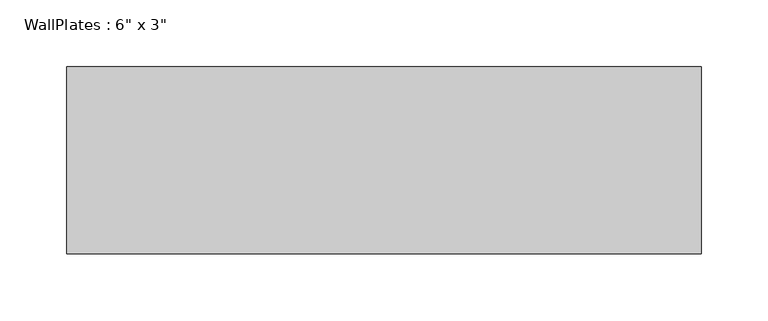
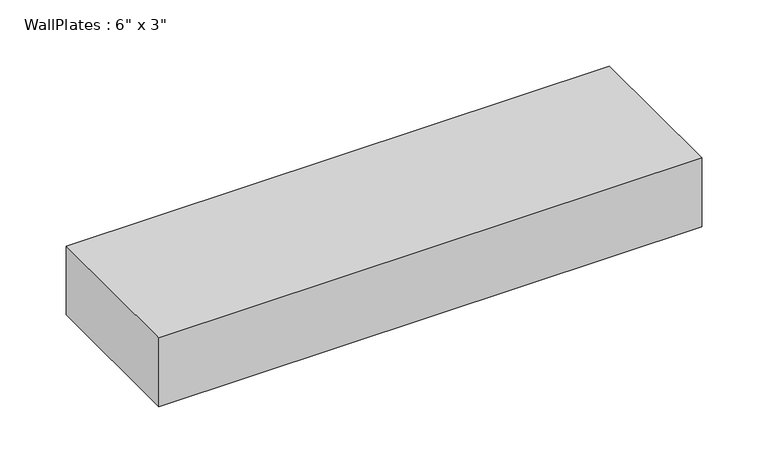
"""IFC4 building model written with IfcOpenShell, lengths in millimetres: beam geometry."""

import ifcopenshell
import ifcopenshell.guid

model = None  # the IFC model being written
_history = None  # IfcOwnerHistory: only IFC2X3 demands one
_inside = {}  # id of a spatial element -> (the spatial element, [elements in it])
_under = {}  # id of a project, library or spatial element -> (it, [spatial elements below it])
_declared = {}  # id of a project -> (the project, [libraries it declares])
_typed = {}  # id of a type object -> (the type object, [elements of that type])
_made_of = {}  # id of a material, layer set ... -> (it, [elements and type objects made of it])


def new_model(schema):
    """Start an empty IFC model of exactly this schema.

    Asked for "IFC4X3", IfcOpenShell would pick the latest addendum, in which some entities
    have other attributes; the version numbers below select the first issue.
    IFC2X3 requires an IfcOwnerHistory on every rooted entity: one is made here for all.
    """
    global model, _history
    if schema == "IFC4X3":
        model = ifcopenshell.file(schema_version=(4, 3, 0, 0))
    else:
        model = ifcopenshell.file(schema=schema)
    _inside.clear()
    _under.clear()
    _declared.clear()
    _typed.clear()
    _made_of.clear()
    _history = None
    if model.schema == "IFC2X3":
        org = make("IfcOrganization", Name="unknown")
        user = make(
            "IfcPersonAndOrganization",
            ThePerson=make("IfcPerson", FamilyName="unknown"),
            TheOrganization=org,
        )
        app = make(
            "IfcApplication",
            ApplicationDeveloper=org,
            Version="unknown",
            ApplicationFullName="unknown",
            ApplicationIdentifier="unknown",
        )
        _history = make(
            "IfcOwnerHistory",
            OwningUser=user,
            OwningApplication=app,
            ChangeAction="ADDED",
            CreationDate=0,
        )
    return model


def make(cls, **values):
    """One entity of the class cls with the attributes given. An attribute that is None is left unset."""
    return model.create_entity(
        cls, **{name: value for name, value in values.items() if value is not None}
    )


def rooted(cls, **values):
    """An entity with a GlobalId (a new one), such as an element, a storey or a relation."""
    return make(cls, GlobalId=ifcopenshell.guid.new(), OwnerHistory=_history, **values)


def si_unit(unit_type, name, prefix=None):
    """IfcSIUnit, for example si_unit("LENGTHUNIT", "METRE", prefix="MILLI")."""
    return make("IfcSIUnit", UnitType=unit_type, Prefix=prefix, Name=name)


def assignment(units):
    """IfcUnitAssignment: the units of a project."""
    return None if units is None else make("IfcUnitAssignment", Units=units)


def point(xyz):
    """IfcCartesianPoint."""
    return None if xyz is None else make("IfcCartesianPoint", Coordinates=xyz)


def direction(xyz):
    """IfcDirection."""
    return None if xyz is None else make("IfcDirection", DirectionRatios=xyz)


def frame(location, z_axis=None, x_axis=None):
    """IfcAxis2Placement3D, a coordinate frame: its origin and axes. An axis left out is left unset."""
    return make(
        "IfcAxis2Placement3D",
        Location=point(location),
        Axis=direction(z_axis),
        RefDirection=direction(x_axis),
    )


def origin():
    """The frame at (0, 0, 0) with its axes left unset."""
    return frame((0.0, 0.0, 0.0))


def place(relative_to, where):
    """IfcLocalPlacement: puts the frame where relative to a parent placement (None: the world)."""
    return make(
        "IfcLocalPlacement", PlacementRelTo=relative_to, RelativePlacement=where
    )


def context(
    kind, dimensions, precision=None, world=None, true_north=None, identifier=None
):
    """IfcGeometricRepresentationContext, for example the 3D "Model" context."""
    return make(
        "IfcGeometricRepresentationContext",
        ContextIdentifier=identifier,
        ContextType=kind,
        CoordinateSpaceDimension=dimensions,
        Precision=precision,
        WorldCoordinateSystem=world,
        TrueNorth=true_north,
    )


def project(units=None, contexts=None):
    """IfcProject with its units and contexts."""
    return rooted(
        "IfcProject",
        Name="project",
        RepresentationContexts=contexts,
        UnitsInContext=assignment(units),
    )


def spatial(cls, under=None, at=None, **own):
    """A site, building, storey or space (cls), placed at a placement, below another one or the project."""
    s = rooted(cls, ObjectPlacement=at, **own)
    if under is not None:
        _under.setdefault(under.id(), (under, []))[1].append(s)
    return s


def polyline(points):
    """IfcPolyline through the points."""
    return make("IfcPolyline", Points=[point(p) for p in points])


def outline(outer, holes=None, kind="AREA"):
    """IfcArbitraryClosedProfileDef: a profile drawn as a closed curve; with holes, ...WithVoids."""
    if holes is None:
        return make("IfcArbitraryClosedProfileDef", ProfileType=kind, OuterCurve=outer)
    return make(
        "IfcArbitraryProfileDefWithVoids",
        ProfileType=kind,
        OuterCurve=outer,
        InnerCurves=holes,
    )


def extrude(swept, where, along, depth):
    """IfcExtrudedAreaSolid: the profile swept, set in the frame where, extruded along a direction by depth."""
    return make(
        "IfcExtrudedAreaSolid",
        SweptArea=swept,
        Position=where,
        ExtrudedDirection=direction(along),
        Depth=depth,
    )


def shape(context_of_items, identifier, shape_type, items):
    """IfcShapeRepresentation: the items that make up one representation, for example the "Body"."""
    return make(
        "IfcShapeRepresentation",
        ContextOfItems=context_of_items,
        RepresentationIdentifier=identifier,
        RepresentationType=shape_type,
        Items=items,
    )


def source(mapping_origin, context_of_items, identifier, shape_type, items):
    """IfcRepresentationMap: a shape defined once, which mapped items show again and again."""
    return make(
        "IfcRepresentationMap",
        MappingOrigin=mapping_origin,
        MappedRepresentation=shape(context_of_items, identifier, shape_type, items),
    )


def transform(
    local_origin,
    x_axis=None,
    y_axis=None,
    z_axis=None,
    scale=None,
    scale2=None,
    scale3=None,
    uniform=True,
):
    """IfcCartesianTransformationOperator3D, or its non-uniform kind. x_axis, y_axis, z_axis: its Axis1, 2, 3."""
    if uniform:
        return make(
            "IfcCartesianTransformationOperator3D",
            Axis1=direction(x_axis),
            Axis2=direction(y_axis),
            LocalOrigin=point(local_origin),
            Scale=scale,
            Axis3=direction(z_axis),
        )
    return make(
        "IfcCartesianTransformationOperator3DnonUniform",
        Axis1=direction(x_axis),
        Axis2=direction(y_axis),
        LocalOrigin=point(local_origin),
        Scale=scale,
        Axis3=direction(z_axis),
        Scale2=scale2,
        Scale3=scale3,
    )


def mapped(mapping_source, mapping_target):
    """IfcMappedItem: shows the shape of a source again, moved by a transform."""
    return make(
        "IfcMappedItem", MappingSource=mapping_source, MappingTarget=mapping_target
    )


def made_of(thing, what):
    """Note that an element or type object is made of a material, layer set ...; save() writes the relation."""
    if what is not None:
        _made_of.setdefault(what.id(), (what, []))[1].append(thing)
    return thing


def element(
    cls,
    number,
    at=None,
    inside=None,
    cuts=None,
    type_object=None,
    material=None,
    context=None,
    identifier="Body",
    shape_type=None,
    held_by="IfcProductDefinitionShape",
    body=None,
    shapes=None,
    **own,
):
    """One element of the class cls, such as IfcWall. Its Tag is "e" and its number.

    at: its placement. inside: the storey or other place that contains it. cuts: it is an
    opening in that element (IfcRelVoidsElement). A single representation is given by context,
    identifier, shape_type and body (its items); several are given by shapes. held_by: the class
    of the entity that holds the representations. save() writes the other relations.
    """
    e = rooted(cls, Tag="e%d" % number, ObjectPlacement=at, **own)
    if body is not None:
        shapes = [shape(context, identifier, shape_type, body)]
    if shapes is not None:
        e.Representation = make(held_by, Representations=shapes)
    if inside is not None:
        _inside.setdefault(inside.id(), (inside, []))[1].append(e)
    if cuts is not None:
        rooted(
            "IfcRelVoidsElement", RelatingBuildingElement=cuts, RelatedOpeningElement=e
        )
    if type_object is not None:
        _typed.setdefault(type_object.id(), (type_object, []))[1].append(e)
    return made_of(e, material)


def aggregate(whole, parts):
    """IfcRelAggregates: a whole, such as a stair, and the parts it consists of."""
    return rooted("IfcRelAggregates", RelatingObject=whole, RelatedObjects=parts)


def save(model, path):
    """Write the relations noted so far, then the file.

    IfcRelAggregates (storeys below a building ...), IfcRelContainedInSpatialStructure (elements
    in a storey), IfcRelDefinesByType, IfcRelAssociatesMaterial and IfcRelDeclares: one each for
    every whole, place, type object, material and project.
    """
    for whole, parts in _under.values():
        aggregate(whole, parts)
    for where, things in _inside.values():
        rooted(
            "IfcRelContainedInSpatialStructure",
            RelatedElements=things,
            RelatingStructure=where,
        )
    for kind, things in _typed.values():
        rooted("IfcRelDefinesByType", RelatedObjects=things, RelatingType=kind)
    for what, things in _made_of.values():
        rooted("IfcRelAssociatesMaterial", RelatedObjects=things, RelatingMaterial=what)
    for by, libraries in _declared.values():
        rooted("IfcRelDeclares", RelatingContext=by, RelatedDefinitions=libraries)
    model.write(path)


def beam_e65ac014(model_context):
    return source(origin(), model_context, "Body", "SweptSolid", [
        extrude(outline(polyline([(-237.0716667, -69.85), (-237.0716667, 69.85), (237.0716667, 69.85), (237.0716667, -69.85), (-237.0716667, -69.85)])), frame((0.0, 0.0, -31.75), z_axis=(0.0, 0.0, 1.0), x_axis=(1.0, 0.0, 0.0)), (0.0, 0.0, 1.0), 63.5),
    ])


if __name__ == "__main__":
    model = new_model("IFC4")
    model_context = context("Model", 3, world=origin())
    ifc_project = project(units=[si_unit("LENGTHUNIT", "METRE", prefix="MILLI")], contexts=[model_context])
    site = spatial("IfcSite", under=ifc_project)
    building = spatial("IfcBuilding", under=site)
    placement = place(None, origin())
    beam_shape = beam_e65ac014(model_context)
    element("IfcBeam", 1, ObjectType="WallPlates : 6\" x 3\"", at=placement, inside=building, context=model_context, shape_type="MappedRepresentation", body=[
        mapped(beam_shape, transform((0.0, 0.0, 0.0), x_axis=(1.0, 0.0, 0.0), y_axis=(0.0, 1.0, 0.0), z_axis=(0.0, 0.0, 1.0))),
    ])
    save(model, "model.ifc")
